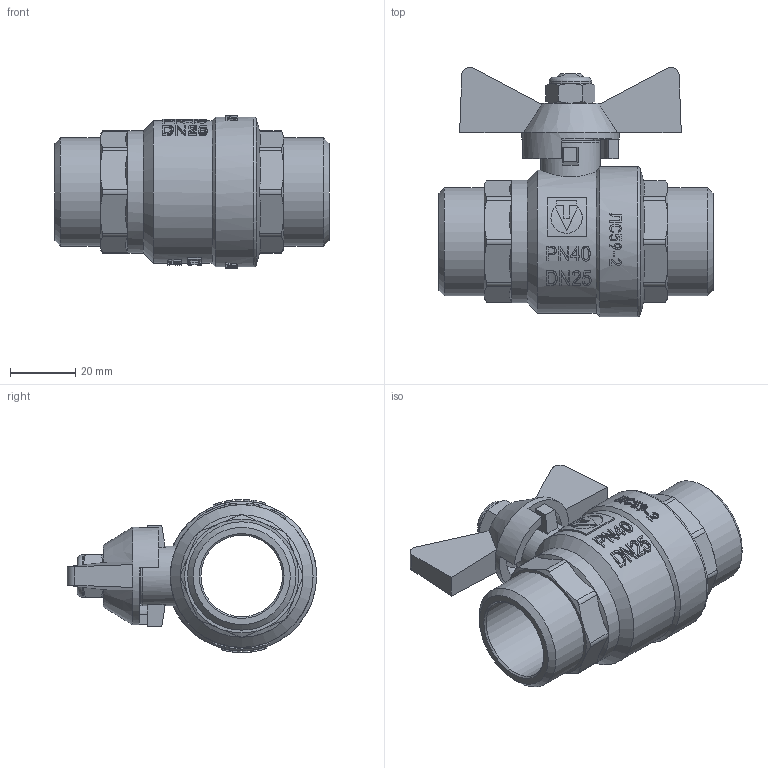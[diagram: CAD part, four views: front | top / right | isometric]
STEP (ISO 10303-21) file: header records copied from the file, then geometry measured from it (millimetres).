
FILE_DESCRIPTION(('STEP AP203'), '1');
FILE_NAME('VT.219S.N.06', '', ('UNSPECIFIED'), ('UNSPECIFIED'), 'C3D Converter', 'C3D Toolkit', '');
FILE_SCHEMA(('CONFIG_CONTROL_DESIGN'));
Length unit declared in the file: millimetre
Products named in the file (1): ВР.491811.011.000 СБ
Bounding box: 84.1 x 76.5 x 47 mm (x, y, z)
Volume: 72820.6 mm3; surface area: 24988.1 mm2
Topology: 1 solids, 1 shells, 1587 faces, 4565 edges, 3029 vertices
Faces by surface type: plane 1448, cylinder 88, cone 48, torus 3
Full cylindrical faces by diameter (mm): 9.8 x1, 12.1 x1, 13 x1, 14 x1, 18.3 x1, 24 x1, 25 x1, 30 x1, 33.249 x2, 37.6 x1, 43.8 x1, 46 x1
Entity records: 54837 total; most frequent: CARTESIAN_POINT 20373, ORIENTED_EDGE 9042, DIRECTION 5530, EDGE_CURVE 4521, VERTEX_POINT 3021, AXIS2_PLACEMENT_3D 1908, LINE 1714, VECTOR 1714
